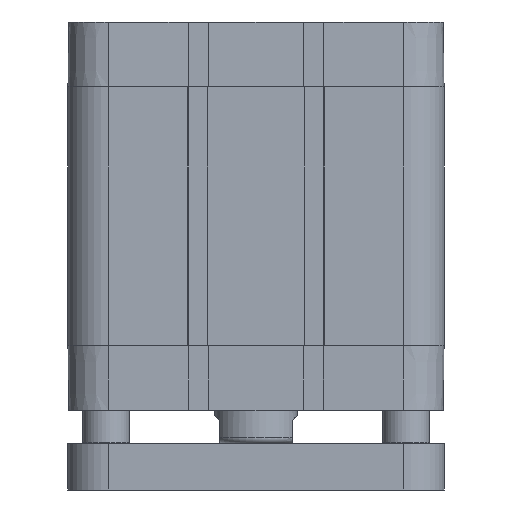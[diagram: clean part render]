
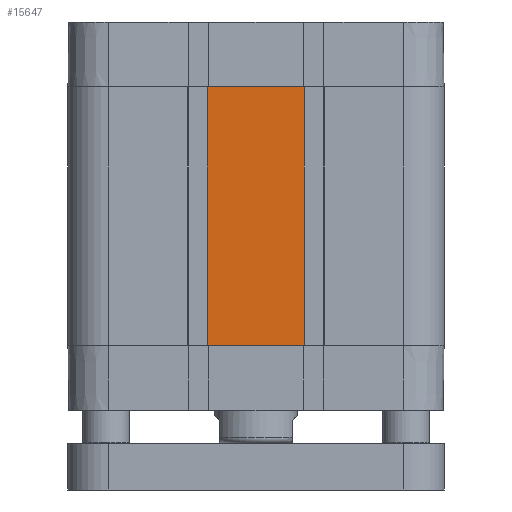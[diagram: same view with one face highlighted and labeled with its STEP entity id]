
A CAD part, left-side view. The second image highlights one B-rep face of the part: STEP entity #15647.
In plain terms, the highlighted planar face has unit normal (-1, 0, 0).
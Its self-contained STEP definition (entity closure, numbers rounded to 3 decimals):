
#643=LINE('',#28480,#2017);
#644=LINE('',#28483,#2018);
#645=LINE('',#28485,#2019);
#646=LINE('',#28487,#2020);
#2017=VECTOR('',#24116,1000.);
#2018=VECTOR('',#24117,1000.);
#2019=VECTOR('',#24118,1000.);
#2020=VECTOR('',#24119,1000.);
#3950=ORIENTED_EDGE('',*,*,#8485,.F.);
#3951=ORIENTED_EDGE('',*,*,#8486,.T.);
#3952=ORIENTED_EDGE('',*,*,#8487,.F.);
#3953=ORIENTED_EDGE('',*,*,#8488,.T.);
#8485=EDGE_CURVE('',#10722,#10723,#643,.T.);
#8486=EDGE_CURVE('',#10722,#10724,#644,.T.);
#8487=EDGE_CURVE('',#10725,#10724,#645,.T.);
#8488=EDGE_CURVE('',#10725,#10723,#646,.T.);
#10722=VERTEX_POINT('',#28481);
#10723=VERTEX_POINT('',#28482);
#10724=VERTEX_POINT('',#28484);
#10725=VERTEX_POINT('',#28486);
#12851=EDGE_LOOP('',(#3950,#3951,#3952,#3953));
#14030=FACE_BOUND('',#12851,.T.);
#15162=PLANE('',#22288);
#15647=ADVANCED_FACE('',(#14030),#15162,.T.);
#22288=AXIS2_PLACEMENT_3D('',#28479,#24114,#24115);
#24114=DIRECTION('',(-1.,0.,0.));
#24115=DIRECTION('',(0.,0.,1.));
#24116=DIRECTION('',(0.,0.,1.));
#24117=DIRECTION('',(0.,-1.,0.));
#24118=DIRECTION('',(0.,0.,-1.));
#24119=DIRECTION('',(0.,1.,0.));
#28479=CARTESIAN_POINT('',(-56.75,-56.75,0.));
#28480=CARTESIAN_POINT('',(-56.75,14.5,-16.5));
#28481=CARTESIAN_POINT('',(-56.75,14.5,-61.5));
#28482=CARTESIAN_POINT('',(-56.75,14.5,16.5));
#28483=CARTESIAN_POINT('',(-56.75,14.5,-61.5));
#28484=CARTESIAN_POINT('',(-56.75,-14.5,-61.5));
#28485=CARTESIAN_POINT('',(-56.75,-14.5,16.5));
#28486=CARTESIAN_POINT('',(-56.75,-14.5,16.5));
#28487=CARTESIAN_POINT('',(-56.75,-14.5,16.5));
